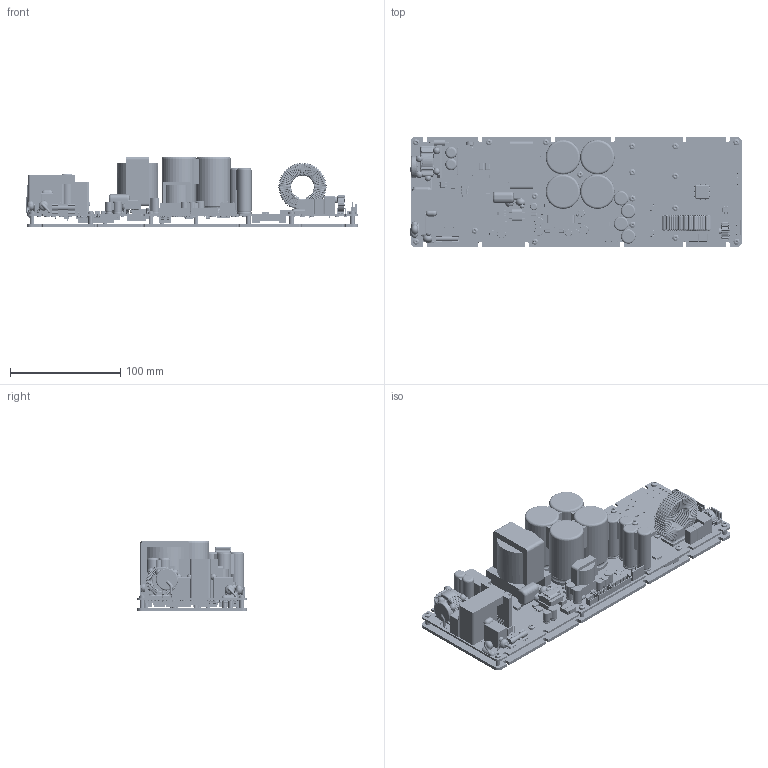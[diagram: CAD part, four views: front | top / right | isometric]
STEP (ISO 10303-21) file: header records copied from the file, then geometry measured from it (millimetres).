
FILE_DESCRIPTION(/* description */ ('STEP AP242','CAx-IF Rec.Pracs.---Representation and Presentation of Product Manufacturing Information (PMI)---4.0---2014-10-13','CAx-IF Rec.Pracs.---3D Tessellated Geometry---0.4---2014-09-14','2;1'),/* implementation_level */ '2;1');
FILE_NAME(/* name */ '641b2a47266f041cc7345475',/* time_stamp */ '2023-03-22T16:18:33+00:00',/* author */ (''),/* organization */ (''),/* preprocessor_version */ 'ST-DEVELOPER v18.102',/* originating_system */ ' ',/* authorisation */ ' ');
FILE_SCHEMA (('AP242_MANAGED_MODEL_BASED_3D_ENGINEERING_MIM_LF { 1 0 10303 442 1 1 4 }'));
Products named in the file (278): Assembly 1; 3000AS2 - SMB_R; 3000AS2 - TRAFO_8014292-12_HA; 3000AS2 - ECAP_P1000_D3100_VIA_HA_2; Screw - Machine Thread - M3 x 6 - PNH - Torx10 - Blue - Zink - ISO 14
583_ISO 14583 - M3 x 6 x 5 - 4.8-N_15; Part 48; Part 38; 3000AS2 - GAP5X05_1; 3000AS2 - SMA_H3_R_2; 3000AS2 - ECAP_P500_D1300_VIA_HA_6; 3000AS2 - ECAP_P1000_D3100_VIA_HA; 3000AS2 - D2PAK_HEATGUIDE_R_5; 3000AS2 - FUSE_500X2000_HA; Part 18; 3000AS2 - COIL_OWTC-A0480; Screw - Machine Thread - M3 x 6 - PNH - Torx10 - Blue - Zink - ISO 14
583_ISO 14583 - M3 x 6 x 5 - 4.8-N_4; 3000AS2 - FH_7200009_HA_1; Part 29; Part 49; 3000AS2 - HS_600X1000-1_R_8; 3000AS2 - SMA_R_8; 3000AS2 - ECAP_P1000_D3100_VIA_HA_1; 3000AS2 - RNTC_P500_850X600_HA; 3000AS2 - FCAP_P2250_1450X2650_HA; Part 3; 3000AS2 - SMA_H3_R_1; 3000AS2 - HS_600X1000-1_R_4; Part 11; 3000AS2 - SMA_H3_R_4; 3000AS2 - COIL_CM_8021656-4_HA_1; 3000AS2 - D2PAK_HEATGUIDE_R; Part 47; 3000AS2 - SMA_R_4; Part 14; 3000AS2 - SMA_R_5; 3000AS2 - ECAP_P500_D1300_VIA_HA_2; 3000AS2 - COIL_CM_8021005-4_HA; Screw - Machine Thread - M3 x 6 - PNH - Torx10 - Blue - Zink - ISO 14
583_ISO 14583 - M3 x 6 x 5 - 4.8-N_1; 3000AS2 - TRAFO_8014289_HA; 3000AS2 - CONN_PHD-14_2ROW_TOP_HA ...
Assembly tree (286 placements, depth 2):
  Assembly 1
    3000AS2 - SMB_R
    3000AS2 - TRAFO_8014292-12_HA
    3000AS2 - ECAP_P1000_D3100_VIA_HA_2
    3000AS2 - TRAFO_8014292-12_HA
    Screw - Machine Thread - M3 x 6 - PNH - Torx10 - Blue - Zink - ISO 14
583_ISO 14583 - M3 x 6 x 5 - 4.8-N_15
    Part 48
    Part 38
    3000AS2 - GAP5X05_1
    3000AS2 - SMA_H3_R_2
    3000AS2 - ECAP_P500_D1300_VIA_HA_6
    3000AS2 - ECAP_P1000_D3100_VIA_HA
    3000AS2 - D2PAK_HEATGUIDE_R_5
    3000AS2 - FUSE_500X2000_HA
    Part 18
    3000AS2 - COIL_OWTC-A0480
    Screw - Machine Thread - M3 x 6 - PNH - Torx10 - Blue - Zink - ISO 14
583_ISO 14583 - M3 x 6 x 5 - 4.8-N_4
    3000AS2 - FH_7200009_HA_1
    Part 29
    Part 49
    3000AS2 - FUSE_500X2000_HA
    3000AS2 - HS_600X1000-1_R_8
    3000AS2 - SMA_R_8
    3000AS2 - ECAP_P500_D1300_VIA_HA_6
    3000AS2 - ECAP_P1000_D3100_VIA_HA_1
    3000AS2 - RNTC_P500_850X600_HA
    3000AS2 - FCAP_P2250_1450X2650_HA
    Part 3
    3000AS2 - SMA_H3_R_1
    3000AS2 - HS_600X1000-1_R_4
    Part 11
    3000AS2 - SMA_H3_R_4
    3000AS2 - COIL_CM_8021656-4_HA_1
    3000AS2 - D2PAK_HEATGUIDE_R
    Part 47
    3000AS2 - SMA_R_4
    Part 14
    3000AS2 - SMA_R_5
    3000AS2 - ECAP_P500_D1300_VIA_HA_2
    3000AS2 - COIL_CM_8021005-4_HA
    Screw - Machine Thread - M3 x 6 - PNH - Torx10 - Blue - Zink - ISO 14
583_ISO 14583 - M3 x 6 x 5 - 4.8-N_1
    3000AS2 - TRAFO_8014289_HA
    3000AS2 - CONN_PHD-14_2ROW_TOP_HA
    3000AS2 - TQFP80_P50_1200X1200_R
    Part 4
    3000AS2 - COIL_CM_8021009-5_HA
    3000AS2 - HS_600X1000-1_R
    3000AS2 - COIL_OWTC-A0480
    3000AS2 - ECAP_P1000_D3100_VIA_HA
    3000AS2 - CONN_PHD-14_2ROW_TOP_HA
    3000AS2 - SSOP20_P65_W530_R
    3000AS2 - 1812_R_3
    3000AS2 - CONN_PHD-14_2ROW_TOP_HA
    3000AS2 - COIL_OWTC-A0480
    Part 25
    Screw - Machine Thread - M3 x 6 - PNH - Torx10 - Blue - Zink - ISO 14
583_ISO 14583 - M3 x 6 x 5 - 4.8-N
    3000AS2 - ECAP_P500_D1300_VIA_HA_7
    Screw - Machine Thread - M3 x 6 - PNH - Torx10 - Blue - Zink - ISO 14
583_ISO 14583 - M3 x 6 x 5 - 4.8-N_13
    3000AS2 - CONN_PHD-14_2ROW_TOP_HA
    3000AS2 - COIL_OWTC-A0480
Bounding box: 300.55 x 100 x 63.96 mm (x, y, z)
Volume: 527142.6 mm3; surface area: 266273.3 mm2
Topology: 286 solids, 288 shells, 9652 faces, 25447 edges, 16099 vertices
Faces by surface type: plane 5054, cylinder 3041, torus 1077, bspline 224, sphere 211, cone 45
Full cylindrical faces by diameter (mm): 0.1 x2, 0.2 x42, 0.5 x18, 0.6 x20, 0.75 x4, 0.8 x48, 0.9 x40, 1 x182, 1.1 x14, 1.2 x57, 1.4 x25, 1.5 x11, 1.6 x22, 1.75 x5, 1.95 x8, 2 x18, 2.4 x22, 2.8 x18, 2.9 x28, 3 x1, 3.2 x2, 3.3 x1, 3.35 x4, 3.4 x30, 3.5 x18, 3.6 x18, 4.2 x18, 4.4 x1, 4.7 x2, 5 x6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
Entity records: 309951 total; most frequent: CARTESIAN_POINT 73778, DIRECTION 45642, ORIENTED_EDGE 44986, EDGE_CURVE 22493, AXIS2_PLACEMENT_3D 16658, VERTEX_POINT 15223, FACE_BOUND 12402, EDGE_LOOP 12375
